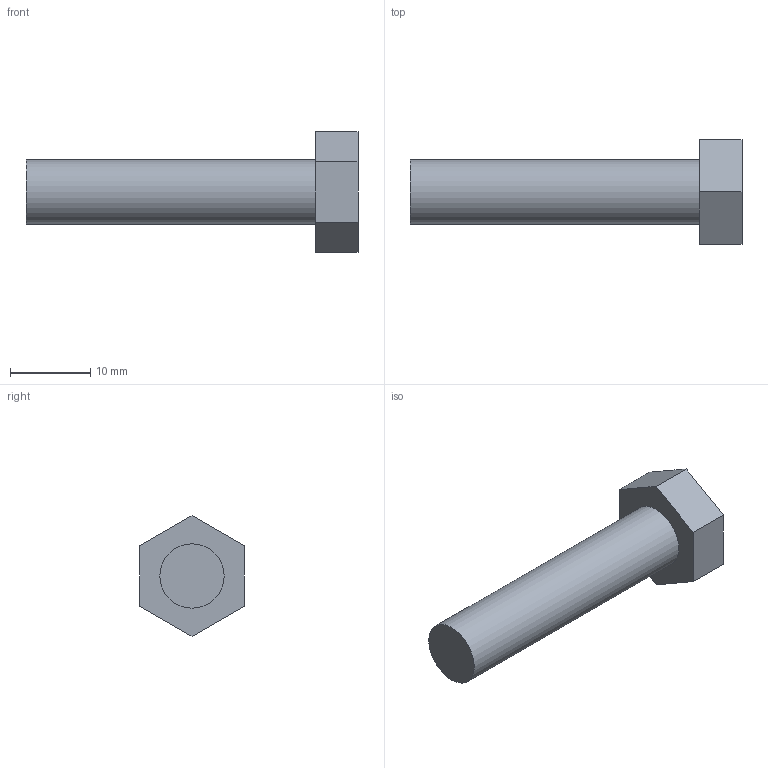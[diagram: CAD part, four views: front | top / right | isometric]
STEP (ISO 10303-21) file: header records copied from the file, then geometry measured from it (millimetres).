
FILE_DESCRIPTION(('STEP AP242'), '1');
FILE_NAME('Áîëò Ì8', '', ('UNSPECIFIED'), ('UNSPECIFIED'), 'C3D Converter', 'C3D Toolkit', '');
FILE_SCHEMA(('AP242_MANAGED_MODEL_BASED_3D_ENGINEERING_MIM_LF { 1 0 10303 442 1 1 4 }'));
Length unit declared in the file: millimetre
Bounding box: 41.3 x 13 x 15.01 mm (x, y, z)
Volume: 2585.3 mm3; surface area: 1436.2 mm2
Topology: 1 solids, 1 shells, 10 faces, 26 edges, 20 vertices
Faces by surface type: plane 9, cylinder 1
Full cylindrical faces by diameter (mm): 8 x1
Entity records: 855 total; most frequent: CARTESIAN_POINT 553, DIRECTION 52, ORIENTED_EDGE 40, EDGE_CURVE 20, LINE 18, VECTOR 18, AXIS2_PLACEMENT_3D 17, VERTEX_POINT 14
